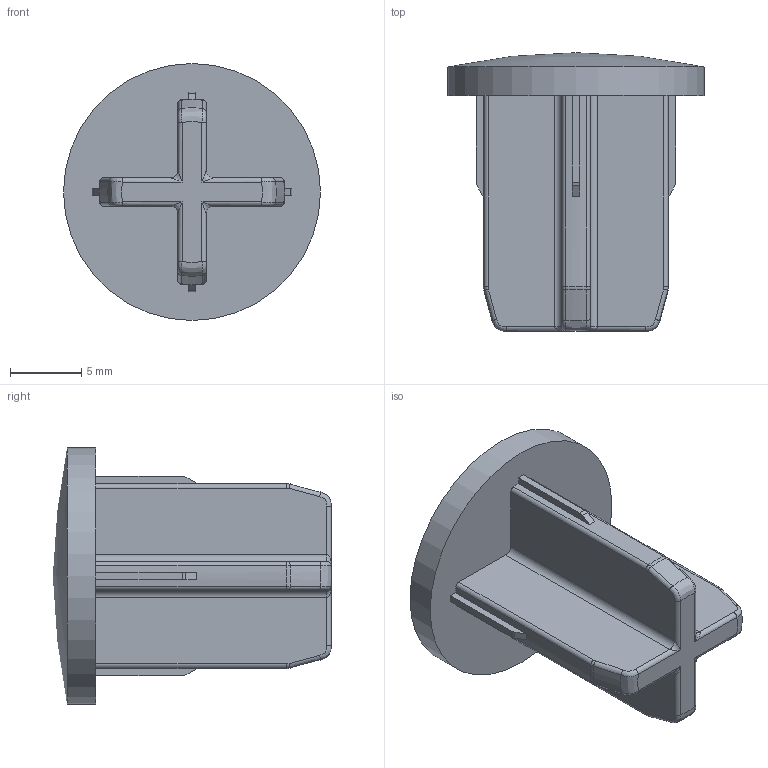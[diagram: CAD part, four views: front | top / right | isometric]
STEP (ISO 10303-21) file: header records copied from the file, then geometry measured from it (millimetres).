
FILE_DESCRIPTION((''),'2;1');
FILE_NAME('C:\Vault Klient\Projekt\Step\300-3070.stp','2009-12-09T07:59:35',('Mathias'),(''),'Autodesk Inventor 2010','Autodesk Inventor 2010','');
FILE_SCHEMA(('CONFIG_CONTROL_DESIGN'));
Length unit declared in the file: millimetre
Products named in the file (1): 300-3070
Bounding box: 18 x 19.5 x 18 mm (x, y, z)
Volume: 1422.6 mm3; surface area: 1451 mm2
Topology: 1 solids, 1 shells, 100 faces, 251 edges, 150 vertices
Faces by surface type: bspline 36, plane 30, cylinder 29, cone 4, sphere 1
Full cylindrical faces by diameter (mm): 18 x1
Entity records: 4055 total; most frequent: CARTESIAN_POINT 1802, ORIENTED_EDGE 492, DIRECTION 422, EDGE_CURVE 246, AXIS2_PLACEMENT_3D 159, VERTEX_POINT 150, VECTOR 104, LINE 104
